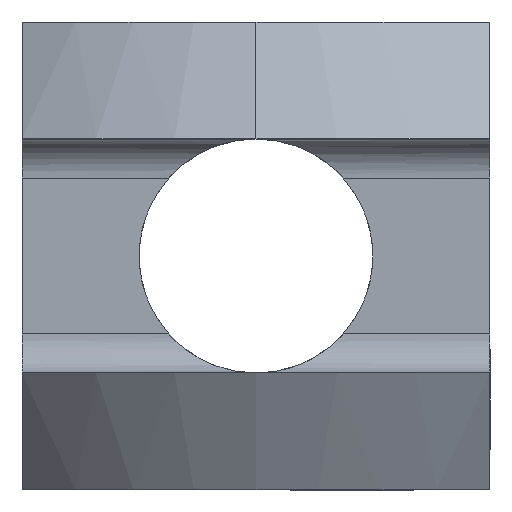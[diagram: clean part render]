
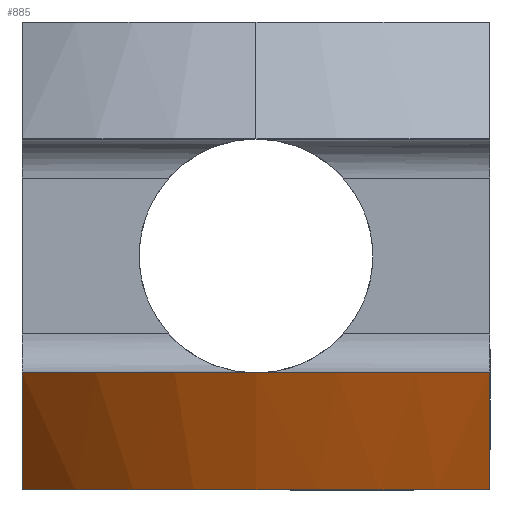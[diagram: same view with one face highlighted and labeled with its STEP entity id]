
A CAD part, left-side view. The second image highlights one B-rep face of the part: STEP entity #885.
In plain terms, the highlighted conical face has half-angle 30 degrees and reference radius 12 mm.
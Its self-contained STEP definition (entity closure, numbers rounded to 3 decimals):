
#39 = DIRECTION ( 'NONE',  ( 1., 0., 0. ) ) ;
#40 = DIRECTION ( 'NONE',  ( 0., 0., 1. ) ) ;
#41 = CARTESIAN_POINT ( 'NONE',  ( -19., 0., -3. ) ) ;
#42 = AXIS2_PLACEMENT_3D ( 'NONE', #41, #40, #39 ) ;
#44 = CONICAL_SURFACE ( 'NONE', #42, 12., 0.524 ) ;
#48 = FACE_OUTER_BOUND ( 'NONE', #935, .T. ) ;
#220 = CARTESIAN_POINT ( 'NONE',  ( -29.392, -6., -3. ) ) ;
#221 = CARTESIAN_POINT ( 'NONE',  ( -29.392, 6., -3. ) ) ;
#222 = DIRECTION ( 'NONE',  ( 1., 0., 0. ) ) ;
#223 = DIRECTION ( 'NONE',  ( 0., 0., 1. ) ) ;
#224 = CARTESIAN_POINT ( 'NONE',  ( -19., 0., -3. ) ) ;
#225 = AXIS2_PLACEMENT_3D ( 'NONE', #224, #223, #222 ) ;
#229 = CIRCLE ( 'NONE', #225, 12. ) ;
#585 = B_SPLINE_CURVE_WITH_KNOTS ( 'NONE', 3,
 ( #640, #639, #638, #637 ),
 .UNSPECIFIED., .F., .F.,
 ( 4, 4 ),
 ( 0.009, 0.012 ),
 .UNSPECIFIED. ) ;
#586 = CARTESIAN_POINT ( 'NONE',  ( -27.333, -6., -6. ) ) ;
#637 = CARTESIAN_POINT ( 'NONE',  ( -27.333, -6., -6. ) ) ;
#638 = CARTESIAN_POINT ( 'NONE',  ( -28.036, -6., -5.011 ) ) ;
#639 = CARTESIAN_POINT ( 'NONE',  ( -28.72, -6., -4.009 ) ) ;
#640 = CARTESIAN_POINT ( 'NONE',  ( -29.392, -6., -3. ) ) ;
#711 = CARTESIAN_POINT ( 'NONE',  ( -29.392, 6., -3. ) ) ;
#712 = CARTESIAN_POINT ( 'NONE',  ( -28.72, 6., -4.009 ) ) ;
#713 = CARTESIAN_POINT ( 'NONE',  ( -28.036, 6., -5.011 ) ) ;
#714 = CARTESIAN_POINT ( 'NONE',  ( -27.333, 6., -6. ) ) ;
#716 = B_SPLINE_CURVE_WITH_KNOTS ( 'NONE', 3,
 ( #714, #713, #712, #711 ),
 .UNSPECIFIED., .F., .F.,
 ( 4, 4 ),
 ( 0.021, 0.025 ),
 .UNSPECIFIED. ) ;
#729 = CARTESIAN_POINT ( 'NONE',  ( -27.333, 6., -6. ) ) ;
#734 = DIRECTION ( 'NONE',  ( 1., 0., 0. ) ) ;
#735 = DIRECTION ( 'NONE',  ( 0., 0., 1. ) ) ;
#736 = CARTESIAN_POINT ( 'NONE',  ( -19., 0., -6. ) ) ;
#737 = AXIS2_PLACEMENT_3D ( 'NONE', #736, #735, #734 ) ;
#741 = CIRCLE ( 'NONE', #737, 10.268 ) ;
#885 = ADVANCED_FACE ( 'NONE', ( #48 ), #44, .T. ) ;
#892 = ORIENTED_EDGE ( 'NONE', *, *, #1181, .F. ) ;
#893 = ORIENTED_EDGE ( 'NONE', *, *, #1274, .T. ) ;
#933 = ORIENTED_EDGE ( 'NONE', *, *, #1249, .F. ) ;
#934 = ORIENTED_EDGE ( 'NONE', *, *, #995, .F. ) ;
#935 = EDGE_LOOP ( 'NONE', ( #934, #933, #893, #892 ) ) ;
#995 = EDGE_CURVE ( 'NONE', #996, #997, #229, .T. ) ;
#996 = VERTEX_POINT ( 'NONE', #221 ) ;
#997 = VERTEX_POINT ( 'NONE', #220 ) ;
#1180 = VERTEX_POINT ( 'NONE', #586 ) ;
#1181 = EDGE_CURVE ( 'NONE', #997, #1180, #585, .T. ) ;
#1239 = VERTEX_POINT ( 'NONE', #729 ) ;
#1249 = EDGE_CURVE ( 'NONE', #1239, #996, #716, .T. ) ;
#1274 = EDGE_CURVE ( 'NONE', #1239, #1180, #741, .T. ) ;
